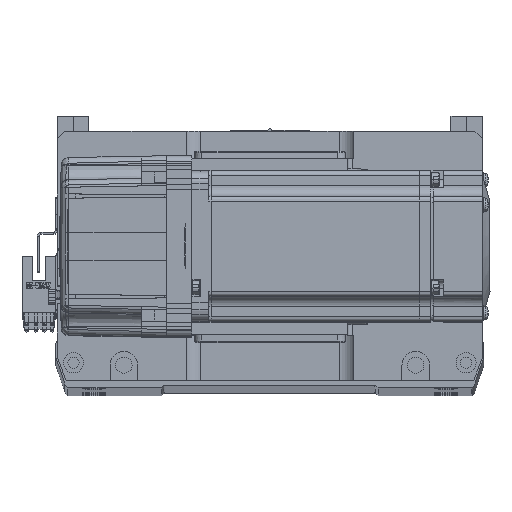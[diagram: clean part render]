
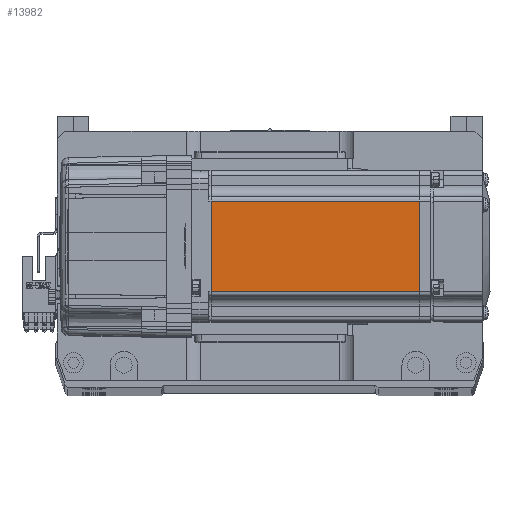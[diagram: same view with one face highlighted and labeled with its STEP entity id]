
A CAD part, top view. The second image highlights one B-rep face of the part: STEP entity #13982.
In plain terms, the highlighted planar face has unit normal (0, 0, 1) as drawn and (0, -1, 0) by its records, which use the part's own axes.
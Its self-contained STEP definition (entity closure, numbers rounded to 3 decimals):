
#2443 = DIRECTION ( 'NONE',  ( -1., 0., 0. ) ) ;
#2768 = CARTESIAN_POINT ( 'NONE',  ( -6.5, -30., -25. ) ) ;
#6327 = DIRECTION ( 'NONE',  ( 0., 0., -1. ) ) ;
#6440 = CARTESIAN_POINT ( 'NONE',  ( -90.45, -30., -18. ) ) ;
#8813 = ORIENTED_EDGE ( 'NONE', *, *, #40272, .T. ) ;
#11335 = DIRECTION ( 'NONE',  ( 1., 0., 0. ) ) ;
#13532 = VECTOR ( 'NONE', #6327, 1000. ) ;
#13982 = ADVANCED_FACE ( 'NONE', ( #39985 ), #38079, .T. ) ;
#20012 = LINE ( 'NONE', #32304, #32029 ) ;
#22034 = CARTESIAN_POINT ( 'NONE',  ( -6.5, -30., -18. ) ) ;
#23206 = VECTOR ( 'NONE', #11335, 1000. ) ;
#25152 = LINE ( 'NONE', #42251, #27532 ) ;
#27107 = LINE ( 'NONE', #31738, #13532 ) ;
#27532 = VECTOR ( 'NONE', #52563, 1000. ) ;
#31738 = CARTESIAN_POINT ( 'NONE',  ( -90.45, -30., -25. ) ) ;
#32029 = VECTOR ( 'NONE', #2443, 1000. ) ;
#32304 = CARTESIAN_POINT ( 'NONE',  ( -6.5, -30., 18. ) ) ;
#32692 = VERTEX_POINT ( 'NONE', #55495 ) ;
#33794 = CARTESIAN_POINT ( 'NONE',  ( -7.75, -30., -18. ) ) ;
#35264 = EDGE_CURVE ( 'NONE', #32692, #65351, #20012, .T. ) ;
#36842 = LINE ( 'NONE', #22034, #23206 ) ;
#38079 = PLANE ( 'NONE',  #64257 ) ;
#39778 = EDGE_LOOP ( 'NONE', ( #8813, #51792, #44505, #53357 ) ) ;
#39985 = FACE_OUTER_BOUND ( 'NONE', #39778, .T. ) ;
#40272 = EDGE_CURVE ( 'NONE', #63513, #32692, #25152, .T. ) ;
#42251 = CARTESIAN_POINT ( 'NONE',  ( -7.75, -30., -25. ) ) ;
#44505 = ORIENTED_EDGE ( 'NONE', *, *, #54961, .T. ) ;
#48339 = DIRECTION ( 'NONE',  ( 0., -1., 0. ) ) ;
#51792 = ORIENTED_EDGE ( 'NONE', *, *, #35264, .T. ) ;
#52563 = DIRECTION ( 'NONE',  ( 0., 0., 1. ) ) ;
#53357 = ORIENTED_EDGE ( 'NONE', *, *, #64769, .T. ) ;
#53477 = DIRECTION ( 'NONE',  ( 0., 0., -1. ) ) ;
#54961 = EDGE_CURVE ( 'NONE', #65351, #64393, #27107, .T. ) ;
#55495 = CARTESIAN_POINT ( 'NONE',  ( -7.75, -30., 18. ) ) ;
#58851 = CARTESIAN_POINT ( 'NONE',  ( -90.45, -30., 18. ) ) ;
#63513 = VERTEX_POINT ( 'NONE', #33794 ) ;
#64257 = AXIS2_PLACEMENT_3D ( 'NONE', #2768, #48339, #53477 ) ;
#64393 = VERTEX_POINT ( 'NONE', #6440 ) ;
#64769 = EDGE_CURVE ( 'NONE', #64393, #63513, #36842, .T. ) ;
#65351 = VERTEX_POINT ( 'NONE', #58851 ) ;
